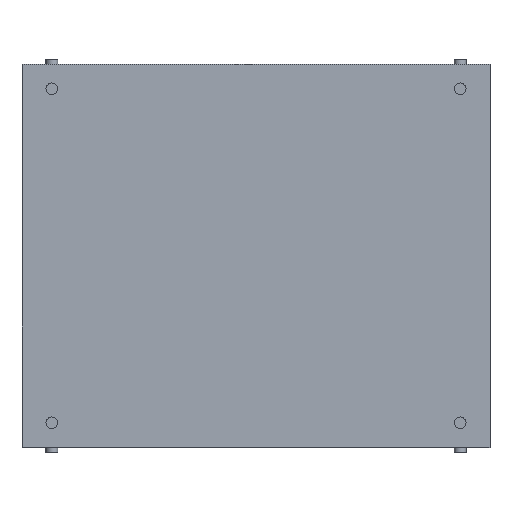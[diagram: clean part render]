
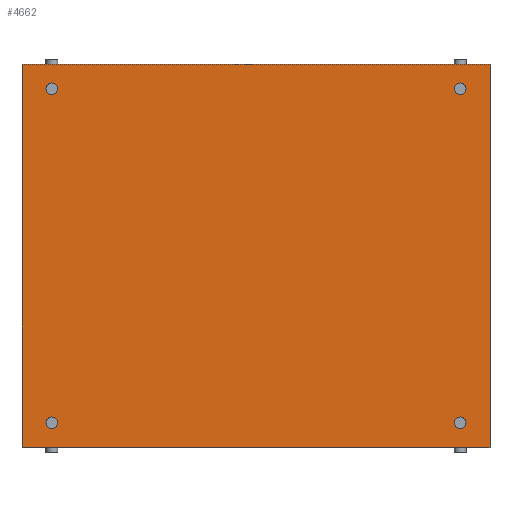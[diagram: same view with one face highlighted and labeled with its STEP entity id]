
A CAD part, top view. The second image highlights one B-rep face of the part: STEP entity #4662.
In plain terms, the highlighted planar face has unit normal (0, 0, 1).
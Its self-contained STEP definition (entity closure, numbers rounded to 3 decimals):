
#4473 = VERTEX_POINT('',#4474);
#4474 = CARTESIAN_POINT('',(-110.,-90.,90.));
#4481 = PLANE('',#4482);
#4482 = AXIS2_PLACEMENT_3D('',#4483,#4484,#4485);
#4483 = CARTESIAN_POINT('',(-110.,-90.,88.5));
#4484 = DIRECTION('',(1.,0.,0.));
#4485 = DIRECTION('',(0.,0.,1.));
#4493 = PLANE('',#4494);
#4494 = AXIS2_PLACEMENT_3D('',#4495,#4496,#4497);
#4495 = CARTESIAN_POINT('',(-110.,-90.,88.5));
#4496 = DIRECTION('',(0.,1.,0.));
#4497 = DIRECTION('',(0.,0.,1.));
#4534 = VERTEX_POINT('',#4535);
#4535 = CARTESIAN_POINT('',(-110.,90.,90.));
#4549 = PLANE('',#4550);
#4550 = AXIS2_PLACEMENT_3D('',#4551,#4552,#4553);
#4551 = CARTESIAN_POINT('',(-110.,90.,88.5));
#4552 = DIRECTION('',(0.,1.,0.));
#4553 = DIRECTION('',(0.,0.,1.));
#4561 = EDGE_CURVE('',#4473,#4534,#4562,.T.);
#4562 = SURFACE_CURVE('',#4563,(#4567,#4574),.PCURVE_S1.);
#4563 = LINE('',#4564,#4565);
#4564 = CARTESIAN_POINT('',(-110.,-90.,90.));
#4565 = VECTOR('',#4566,1.);
#4566 = DIRECTION('',(0.,1.,0.));
#4567 = PCURVE('',#4481,#4568);
#4568 = DEFINITIONAL_REPRESENTATION('',(#4569),#4573);
#4569 = LINE('',#4570,#4571);
#4570 = CARTESIAN_POINT('',(1.5,0.));
#4571 = VECTOR('',#4572,1.);
#4572 = DIRECTION('',(0.,-1.));
#4573 = ( GEOMETRIC_REPRESENTATION_CONTEXT(2) 
PARAMETRIC_REPRESENTATION_CONTEXT() REPRESENTATION_CONTEXT('2D SPACE',''
  ) );
#4574 = PCURVE('',#4575,#4580);
#4575 = PLANE('',#4576);
#4576 = AXIS2_PLACEMENT_3D('',#4577,#4578,#4579);
#4577 = CARTESIAN_POINT('',(-110.,-90.,90.));
#4578 = DIRECTION('',(0.,0.,1.));
#4579 = DIRECTION('',(1.,0.,0.));
#4580 = DEFINITIONAL_REPRESENTATION('',(#4581),#4585);
#4581 = LINE('',#4582,#4583);
#4582 = CARTESIAN_POINT('',(0.,0.));
#4583 = VECTOR('',#4584,1.);
#4584 = DIRECTION('',(0.,1.));
#4585 = ( GEOMETRIC_REPRESENTATION_CONTEXT(2) 
PARAMETRIC_REPRESENTATION_CONTEXT() REPRESENTATION_CONTEXT('2D SPACE',''
  ) );
#4614 = EDGE_CURVE('',#4473,#4615,#4617,.T.);
#4615 = VERTEX_POINT('',#4616);
#4616 = CARTESIAN_POINT('',(110.,-90.,90.));
#4617 = SURFACE_CURVE('',#4618,(#4622,#4629),.PCURVE_S1.);
#4618 = LINE('',#4619,#4620);
#4619 = CARTESIAN_POINT('',(-110.,-90.,90.));
#4620 = VECTOR('',#4621,1.);
#4621 = DIRECTION('',(1.,0.,0.));
#4622 = PCURVE('',#4493,#4623);
#4623 = DEFINITIONAL_REPRESENTATION('',(#4624),#4628);
#4624 = LINE('',#4625,#4626);
#4625 = CARTESIAN_POINT('',(1.5,0.));
#4626 = VECTOR('',#4627,1.);
#4627 = DIRECTION('',(0.,1.));
#4628 = ( GEOMETRIC_REPRESENTATION_CONTEXT(2) 
PARAMETRIC_REPRESENTATION_CONTEXT() REPRESENTATION_CONTEXT('2D SPACE',''
  ) );
#4629 = PCURVE('',#4575,#4630);
#4630 = DEFINITIONAL_REPRESENTATION('',(#4631),#4635);
#4631 = LINE('',#4632,#4633);
#4632 = CARTESIAN_POINT('',(0.,0.));
#4633 = VECTOR('',#4634,1.);
#4634 = DIRECTION('',(1.,0.));
#4635 = ( GEOMETRIC_REPRESENTATION_CONTEXT(2) 
PARAMETRIC_REPRESENTATION_CONTEXT() REPRESENTATION_CONTEXT('2D SPACE',''
  ) );
#4651 = PLANE('',#4652);
#4652 = AXIS2_PLACEMENT_3D('',#4653,#4654,#4655);
#4653 = CARTESIAN_POINT('',(110.,-90.,88.5));
#4654 = DIRECTION('',(1.,0.,0.));
#4655 = DIRECTION('',(0.,0.,1.));
#4662 = ADVANCED_FACE('',(#4663,#4711,#4742,#4773,#4804),#4575,.T.);
#4663 = FACE_BOUND('',#4664,.T.);
#4664 = EDGE_LOOP('',(#4665,#4666,#4667,#4690));
#4665 = ORIENTED_EDGE('',*,*,#4561,.F.);
#4666 = ORIENTED_EDGE('',*,*,#4614,.T.);
#4667 = ORIENTED_EDGE('',*,*,#4668,.T.);
#4668 = EDGE_CURVE('',#4615,#4669,#4671,.T.);
#4669 = VERTEX_POINT('',#4670);
#4670 = CARTESIAN_POINT('',(110.,90.,90.));
#4671 = SURFACE_CURVE('',#4672,(#4676,#4683),.PCURVE_S1.);
#4672 = LINE('',#4673,#4674);
#4673 = CARTESIAN_POINT('',(110.,-90.,90.));
#4674 = VECTOR('',#4675,1.);
#4675 = DIRECTION('',(0.,1.,0.));
#4676 = PCURVE('',#4575,#4677);
#4677 = DEFINITIONAL_REPRESENTATION('',(#4678),#4682);
#4678 = LINE('',#4679,#4680);
#4679 = CARTESIAN_POINT('',(220.,0.));
#4680 = VECTOR('',#4681,1.);
#4681 = DIRECTION('',(0.,1.));
#4682 = ( GEOMETRIC_REPRESENTATION_CONTEXT(2) 
PARAMETRIC_REPRESENTATION_CONTEXT() REPRESENTATION_CONTEXT('2D SPACE',''
  ) );
#4683 = PCURVE('',#4651,#4684);
#4684 = DEFINITIONAL_REPRESENTATION('',(#4685),#4689);
#4685 = LINE('',#4686,#4687);
#4686 = CARTESIAN_POINT('',(1.5,0.));
#4687 = VECTOR('',#4688,1.);
#4688 = DIRECTION('',(0.,-1.));
#4689 = ( GEOMETRIC_REPRESENTATION_CONTEXT(2) 
PARAMETRIC_REPRESENTATION_CONTEXT() REPRESENTATION_CONTEXT('2D SPACE',''
  ) );
#4690 = ORIENTED_EDGE('',*,*,#4691,.F.);
#4691 = EDGE_CURVE('',#4534,#4669,#4692,.T.);
#4692 = SURFACE_CURVE('',#4693,(#4697,#4704),.PCURVE_S1.);
#4693 = LINE('',#4694,#4695);
#4694 = CARTESIAN_POINT('',(-110.,90.,90.));
#4695 = VECTOR('',#4696,1.);
#4696 = DIRECTION('',(1.,0.,0.));
#4697 = PCURVE('',#4575,#4698);
#4698 = DEFINITIONAL_REPRESENTATION('',(#4699),#4703);
#4699 = LINE('',#4700,#4701);
#4700 = CARTESIAN_POINT('',(0.,180.));
#4701 = VECTOR('',#4702,1.);
#4702 = DIRECTION('',(1.,0.));
#4703 = ( GEOMETRIC_REPRESENTATION_CONTEXT(2) 
PARAMETRIC_REPRESENTATION_CONTEXT() REPRESENTATION_CONTEXT('2D SPACE',''
  ) );
#4704 = PCURVE('',#4549,#4705);
#4705 = DEFINITIONAL_REPRESENTATION('',(#4706),#4710);
#4706 = LINE('',#4707,#4708);
#4707 = CARTESIAN_POINT('',(1.5,0.));
#4708 = VECTOR('',#4709,1.);
#4709 = DIRECTION('',(0.,1.));
#4710 = ( GEOMETRIC_REPRESENTATION_CONTEXT(2) 
PARAMETRIC_REPRESENTATION_CONTEXT() REPRESENTATION_CONTEXT('2D SPACE',''
  ) );
#4711 = FACE_BOUND('',#4712,.T.);
#4712 = EDGE_LOOP('',(#4713));
#4713 = ORIENTED_EDGE('',*,*,#4714,.F.);
#4714 = EDGE_CURVE('',#4715,#4715,#4717,.T.);
#4715 = VERTEX_POINT('',#4716);
#4716 = CARTESIAN_POINT('',(-94.3,-78.5,90.));
#4717 = SURFACE_CURVE('',#4718,(#4723,#4730),.PCURVE_S1.);
#4718 = CIRCLE('',#4719,1.7);
#4719 = AXIS2_PLACEMENT_3D('',#4720,#4721,#4722);
#4720 = CARTESIAN_POINT('',(-96.,-78.5,90.));
#4721 = DIRECTION('',(0.,0.,1.));
#4722 = DIRECTION('',(1.,0.,-0.));
#4723 = PCURVE('',#4575,#4724);
#4724 = DEFINITIONAL_REPRESENTATION('',(#4725),#4729);
#4725 = CIRCLE('',#4726,1.7);
#4726 = AXIS2_PLACEMENT_2D('',#4727,#4728);
#4727 = CARTESIAN_POINT('',(14.,11.5));
#4728 = DIRECTION('',(1.,0.));
#4729 = ( GEOMETRIC_REPRESENTATION_CONTEXT(2) 
PARAMETRIC_REPRESENTATION_CONTEXT() REPRESENTATION_CONTEXT('2D SPACE',''
  ) );
#4730 = PCURVE('',#4731,#4736);
#4731 = CYLINDRICAL_SURFACE('',#4732,1.7);
#4732 = AXIS2_PLACEMENT_3D('',#4733,#4734,#4735);
#4733 = CARTESIAN_POINT('',(-96.,-78.5,87.5));
#4734 = DIRECTION('',(0.,0.,1.));
#4735 = DIRECTION('',(1.,0.,-0.));
#4736 = DEFINITIONAL_REPRESENTATION('',(#4737),#4741);
#4737 = LINE('',#4738,#4739);
#4738 = CARTESIAN_POINT('',(0.,2.5));
#4739 = VECTOR('',#4740,1.);
#4740 = DIRECTION('',(1.,0.));
#4741 = ( GEOMETRIC_REPRESENTATION_CONTEXT(2) 
PARAMETRIC_REPRESENTATION_CONTEXT() REPRESENTATION_CONTEXT('2D SPACE',''
  ) );
#4742 = FACE_BOUND('',#4743,.T.);
#4743 = EDGE_LOOP('',(#4744));
#4744 = ORIENTED_EDGE('',*,*,#4745,.F.);
#4745 = EDGE_CURVE('',#4746,#4746,#4748,.T.);
#4746 = VERTEX_POINT('',#4747);
#4747 = CARTESIAN_POINT('',(97.7,-78.5,90.));
#4748 = SURFACE_CURVE('',#4749,(#4754,#4761),.PCURVE_S1.);
#4749 = CIRCLE('',#4750,1.7);
#4750 = AXIS2_PLACEMENT_3D('',#4751,#4752,#4753);
#4751 = CARTESIAN_POINT('',(96.,-78.5,90.));
#4752 = DIRECTION('',(0.,0.,1.));
#4753 = DIRECTION('',(1.,0.,-0.));
#4754 = PCURVE('',#4575,#4755);
#4755 = DEFINITIONAL_REPRESENTATION('',(#4756),#4760);
#4756 = CIRCLE('',#4757,1.7);
#4757 = AXIS2_PLACEMENT_2D('',#4758,#4759);
#4758 = CARTESIAN_POINT('',(206.,11.5));
#4759 = DIRECTION('',(1.,0.));
#4760 = ( GEOMETRIC_REPRESENTATION_CONTEXT(2) 
PARAMETRIC_REPRESENTATION_CONTEXT() REPRESENTATION_CONTEXT('2D SPACE',''
  ) );
#4761 = PCURVE('',#4762,#4767);
#4762 = CYLINDRICAL_SURFACE('',#4763,1.7);
#4763 = AXIS2_PLACEMENT_3D('',#4764,#4765,#4766);
#4764 = CARTESIAN_POINT('',(96.,-78.5,87.5));
#4765 = DIRECTION('',(0.,0.,1.));
#4766 = DIRECTION('',(1.,0.,-0.));
#4767 = DEFINITIONAL_REPRESENTATION('',(#4768),#4772);
#4768 = LINE('',#4769,#4770);
#4769 = CARTESIAN_POINT('',(0.,2.5));
#4770 = VECTOR('',#4771,1.);
#4771 = DIRECTION('',(1.,0.));
#4772 = ( GEOMETRIC_REPRESENTATION_CONTEXT(2) 
PARAMETRIC_REPRESENTATION_CONTEXT() REPRESENTATION_CONTEXT('2D SPACE',''
  ) );
#4773 = FACE_BOUND('',#4774,.T.);
#4774 = EDGE_LOOP('',(#4775));
#4775 = ORIENTED_EDGE('',*,*,#4776,.F.);
#4776 = EDGE_CURVE('',#4777,#4777,#4779,.T.);
#4777 = VERTEX_POINT('',#4778);
#4778 = CARTESIAN_POINT('',(-94.3,78.5,90.));
#4779 = SURFACE_CURVE('',#4780,(#4785,#4792),.PCURVE_S1.);
#4780 = CIRCLE('',#4781,1.7);
#4781 = AXIS2_PLACEMENT_3D('',#4782,#4783,#4784);
#4782 = CARTESIAN_POINT('',(-96.,78.5,90.));
#4783 = DIRECTION('',(0.,0.,1.));
#4784 = DIRECTION('',(1.,0.,-0.));
#4785 = PCURVE('',#4575,#4786);
#4786 = DEFINITIONAL_REPRESENTATION('',(#4787),#4791);
#4787 = CIRCLE('',#4788,1.7);
#4788 = AXIS2_PLACEMENT_2D('',#4789,#4790);
#4789 = CARTESIAN_POINT('',(14.,168.5));
#4790 = DIRECTION('',(1.,0.));
#4791 = ( GEOMETRIC_REPRESENTATION_CONTEXT(2) 
PARAMETRIC_REPRESENTATION_CONTEXT() REPRESENTATION_CONTEXT('2D SPACE',''
  ) );
#4792 = PCURVE('',#4793,#4798);
#4793 = CYLINDRICAL_SURFACE('',#4794,1.7);
#4794 = AXIS2_PLACEMENT_3D('',#4795,#4796,#4797);
#4795 = CARTESIAN_POINT('',(-96.,78.5,87.5));
#4796 = DIRECTION('',(0.,0.,1.));
#4797 = DIRECTION('',(1.,0.,-0.));
#4798 = DEFINITIONAL_REPRESENTATION('',(#4799),#4803);
#4799 = LINE('',#4800,#4801);
#4800 = CARTESIAN_POINT('',(0.,2.5));
#4801 = VECTOR('',#4802,1.);
#4802 = DIRECTION('',(1.,0.));
#4803 = ( GEOMETRIC_REPRESENTATION_CONTEXT(2) 
PARAMETRIC_REPRESENTATION_CONTEXT() REPRESENTATION_CONTEXT('2D SPACE',''
  ) );
#4804 = FACE_BOUND('',#4805,.T.);
#4805 = EDGE_LOOP('',(#4806));
#4806 = ORIENTED_EDGE('',*,*,#4807,.F.);
#4807 = EDGE_CURVE('',#4808,#4808,#4810,.T.);
#4808 = VERTEX_POINT('',#4809);
#4809 = CARTESIAN_POINT('',(97.7,78.5,90.));
#4810 = SURFACE_CURVE('',#4811,(#4816,#4823),.PCURVE_S1.);
#4811 = CIRCLE('',#4812,1.7);
#4812 = AXIS2_PLACEMENT_3D('',#4813,#4814,#4815);
#4813 = CARTESIAN_POINT('',(96.,78.5,90.));
#4814 = DIRECTION('',(0.,0.,1.));
#4815 = DIRECTION('',(1.,0.,-0.));
#4816 = PCURVE('',#4575,#4817);
#4817 = DEFINITIONAL_REPRESENTATION('',(#4818),#4822);
#4818 = CIRCLE('',#4819,1.7);
#4819 = AXIS2_PLACEMENT_2D('',#4820,#4821);
#4820 = CARTESIAN_POINT('',(206.,168.5));
#4821 = DIRECTION('',(1.,0.));
#4822 = ( GEOMETRIC_REPRESENTATION_CONTEXT(2) 
PARAMETRIC_REPRESENTATION_CONTEXT() REPRESENTATION_CONTEXT('2D SPACE',''
  ) );
#4823 = PCURVE('',#4824,#4829);
#4824 = CYLINDRICAL_SURFACE('',#4825,1.7);
#4825 = AXIS2_PLACEMENT_3D('',#4826,#4827,#4828);
#4826 = CARTESIAN_POINT('',(96.,78.5,87.5));
#4827 = DIRECTION('',(0.,0.,1.));
#4828 = DIRECTION('',(1.,0.,-0.));
#4829 = DEFINITIONAL_REPRESENTATION('',(#4830),#4834);
#4830 = LINE('',#4831,#4832);
#4831 = CARTESIAN_POINT('',(0.,2.5));
#4832 = VECTOR('',#4833,1.);
#4833 = DIRECTION('',(1.,0.));
#4834 = ( GEOMETRIC_REPRESENTATION_CONTEXT(2) 
PARAMETRIC_REPRESENTATION_CONTEXT() REPRESENTATION_CONTEXT('2D SPACE',''
  ) );
